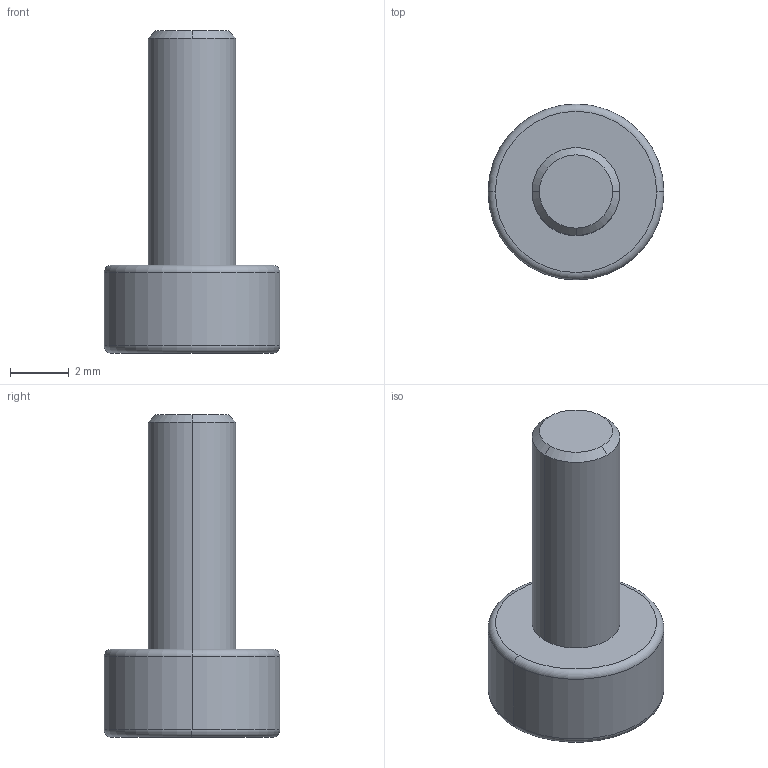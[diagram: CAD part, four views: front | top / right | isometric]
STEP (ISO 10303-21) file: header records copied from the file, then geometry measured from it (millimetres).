
FILE_DESCRIPTION (( 'STEP AP203' ), '1' );
FILE_NAME ('M3-8___.stp_Défaut_sldprt.STEP', '2024-11-30T15:38:10', ( '' ), ( '' ), 'SwSTEP 2.0', 'SolidWorks 2023', '' );
FILE_SCHEMA (( 'CONFIG_CONTROL_DESIGN' ));
Length unit declared in the file: millimetre
Products named in the file (1): M3-8___.stp_Défaut_sldprt
Bounding box: 6 x 6 x 11 mm (x, y, z)
Volume: 119.8 mm3; surface area: 206.9 mm2
Topology: 1 solids, 1 shells, 21 faces, 45 edges, 28 vertices
Faces by surface type: plane 10, torus 4, cylinder 4, cone 3
Entity records: 648 total; most frequent: DIRECTION 109, CARTESIAN_POINT 95, ORIENTED_EDGE 90, EDGE_CURVE 45, AXIS2_PLACEMENT_3D 42, VERTEX_POINT 28, LINE 25, VECTOR 25
